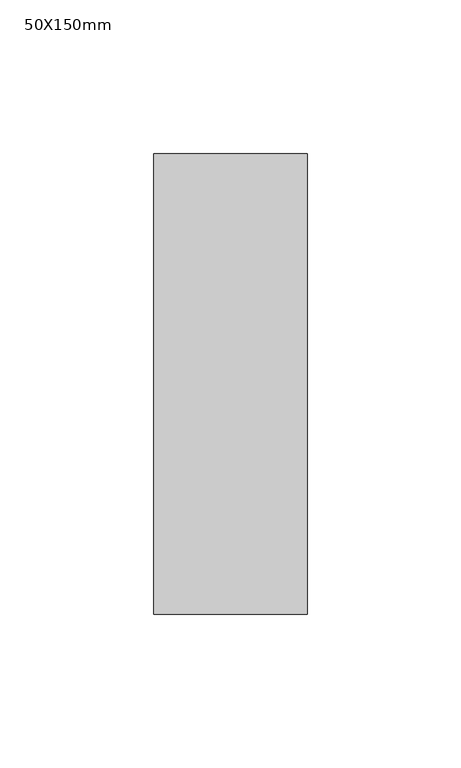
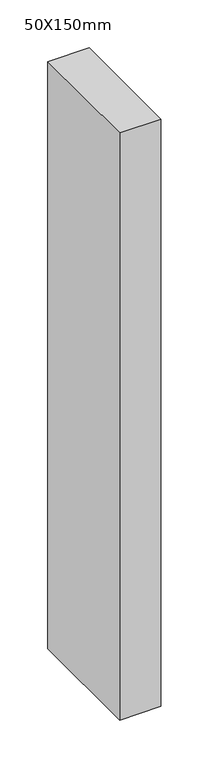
"""IFC4 building model written with IfcOpenShell, lengths in millimetres: member geometry, 矩形竖梃 : 50X150mm."""

from ifc_helpers import new_model, si_unit, frame, origin, place, context, project, spatial, polyline, outline, extrude, source, transform, mapped, element, save


def member_50x150mm_0d3281e4(model_context):
    return source(origin(), model_context, "Body", "SweptSolid", [
        extrude(outline(polyline([(0.0, 75.0), (0.0, -75.0), (-50.0, -75.0), (-50.0, 75.0), (0.0, 75.0)])), frame((0.0, 0.0, -750.0), z_axis=(0.0, 0.0, 1.0), x_axis=(1.0, 0.0, 0.0)), (0.0, 0.0, 1.0), 750.0),
    ])


if __name__ == "__main__":
    model = new_model("IFC4")
    model_context = context("Model", 3, world=origin())
    ifc_project = project(units=[si_unit("LENGTHUNIT", "METRE", prefix="MILLI")], contexts=[model_context])
    site = spatial("IfcSite", under=ifc_project)
    building = spatial("IfcBuilding", under=site)
    placement = place(None, origin())
    member_50x150mm_shape = member_50x150mm_0d3281e4(model_context)
    element("IfcMember", 1, ObjectType="矩形竖梃 : 50X150mm", at=placement, inside=building, context=model_context, shape_type="MappedRepresentation", body=[
        mapped(member_50x150mm_shape, transform((0.0, 0.0, 0.0), x_axis=(1.0, 0.0, 0.0), y_axis=(0.0, 1.0, 0.0), z_axis=(0.0, 0.0, 1.0))),
    ])
    save(model, "model.ifc")
